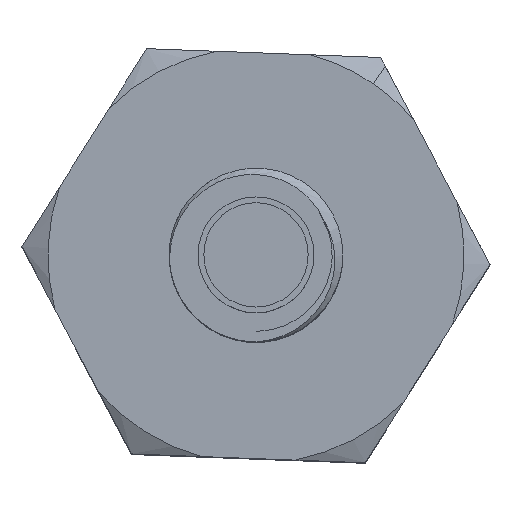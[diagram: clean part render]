
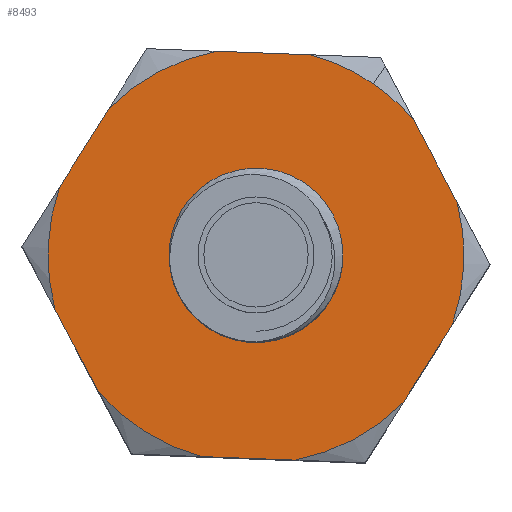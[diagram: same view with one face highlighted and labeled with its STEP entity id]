
A CAD part, top view. The second image highlights one B-rep face of the part: STEP entity #8493.
In plain terms, the highlighted planar face has unit normal (0, 0, 1).
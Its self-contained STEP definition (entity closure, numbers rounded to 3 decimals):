
#40 = VERTEX_POINT ( 'NONE', #11934 ) ;
#68 = VERTEX_POINT ( 'NONE', #5638 ) ;
#167 = AXIS2_PLACEMENT_3D ( 'NONE', #13869, #15284, #13945 ) ;
#428 = EDGE_CURVE ( 'NONE', #1921, #20308, #6421, .T. ) ;
#471 = EDGE_LOOP ( 'NONE', ( #1409, #19967, #14180, #4076, #9982, #4470, #7075, #12801, #4257, #10521, #7459, #13811, #11184 ) ) ;
#1245 = VECTOR ( 'NONE', #20273, 1000. ) ;
#1409 = ORIENTED_EDGE ( 'NONE', *, *, #14018, .F. ) ;
#1561 = DIRECTION ( 'NONE',  ( -0.999, 0.038, 0. ) ) ;
#1770 = CARTESIAN_POINT ( 'NONE',  ( 0., 0., 9.981 ) ) ;
#1832 = CARTESIAN_POINT ( 'NONE',  ( 1.887, -3.574, 9.981 ) ) ;
#1921 = VERTEX_POINT ( 'NONE', #2722 ) ;
#2224 = CIRCLE ( 'NONE', #20480, 3.591 ) ;
#2265 = CARTESIAN_POINT ( 'NONE',  ( 2.534, -2.545, 9.981 ) ) ;
#2294 = CARTESIAN_POINT ( 'NONE',  ( -3.392, 1.181, 9.981 ) ) ;
#2327 = CARTESIAN_POINT ( 'NONE',  ( 0., 0., 9.981 ) ) ;
#2508 = AXIS2_PLACEMENT_3D ( 'NONE', #2327, #8583, #15020 ) ;
#2581 = DIRECTION ( 'NONE',  ( 0.467, -0.884, 0. ) ) ;
#2722 = CARTESIAN_POINT ( 'NONE',  ( -3.471, -0.923, 9.981 ) ) ;
#2902 = LINE ( 'NONE', #18773, #18945 ) ;
#2931 = LINE ( 'NONE', #9053, #19215 ) ;
#2939 = CARTESIAN_POINT ( 'NONE',  ( 0., 0., 9.981 ) ) ;
#3240 = DIRECTION ( 'NONE',  ( 0.564, 0.826, 0. ) ) ;
#3591 = VERTEX_POINT ( 'NONE', #16685 ) ;
#3664 = EDGE_CURVE ( 'NONE', #12375, #68, #2902, .T. ) ;
#4014 = CARTESIAN_POINT ( 'NONE',  ( 0., 0., 9.981 ) ) ;
#4076 = ORIENTED_EDGE ( 'NONE', *, *, #17270, .F. ) ;
#4257 = ORIENTED_EDGE ( 'NONE', *, *, #13579, .F. ) ;
#4326 = CIRCLE ( 'NONE', #2508, 3.591 ) ;
#4346 = EDGE_CURVE ( 'NONE', #20308, #40, #15902, .T. ) ;
#4470 = ORIENTED_EDGE ( 'NONE', *, *, #20348, .F. ) ;
#4597 = VERTEX_POINT ( 'NONE', #15812 ) ;
#4631 = PLANE ( 'NONE',  #7488 ) ;
#4940 = EDGE_CURVE ( 'NONE', #7378, #13513, #4326, .T. ) ;
#5002 = CIRCLE ( 'NONE', #18430, 3.591 ) ;
#5638 = CARTESIAN_POINT ( 'NONE',  ( 0.936, 3.467, 9.981 ) ) ;
#5734 = CARTESIAN_POINT ( 'NONE',  ( 0., 0., 9.981 ) ) ;
#5805 = DIRECTION ( 'NONE',  ( 0., 0., -1. ) ) ;
#5840 = AXIS2_PLACEMENT_3D ( 'NONE', #6577, #6648, #17730 ) ;
#5847 = LINE ( 'NONE', #1832, #6883 ) ;
#6222 = CARTESIAN_POINT ( 'NONE',  ( 0., 0., 9.981 ) ) ;
#6419 = EDGE_CURVE ( 'NONE', #19197, #7378, #10011, .T. ) ;
#6421 = CIRCLE ( 'NONE', #16318, 3.591 ) ;
#6459 = LINE ( 'NONE', #17692, #15690 ) ;
#6577 = CARTESIAN_POINT ( 'NONE',  ( 0., 0., 9.981 ) ) ;
#6648 = DIRECTION ( 'NONE',  ( 0., 0., -1. ) ) ;
#6883 = VECTOR ( 'NONE', #1561, 1000. ) ;
#6907 = EDGE_LOOP ( 'NONE', ( #17323, #9338 ) ) ;
#7074 = EDGE_CURVE ( 'NONE', #11169, #3591, #12410, .T. ) ;
#7075 = ORIENTED_EDGE ( 'NONE', *, *, #4346, .F. ) ;
#7378 = VERTEX_POINT ( 'NONE', #2265 ) ;
#7459 = ORIENTED_EDGE ( 'NONE', *, *, #14937, .F. ) ;
#7488 = AXIS2_PLACEMENT_3D ( 'NONE', #6222, #19289, #9698 ) ;
#7942 = CARTESIAN_POINT ( 'NONE',  ( -0.936, -3.467, 9.981 ) ) ;
#8198 = CARTESIAN_POINT ( 'NONE',  ( 0.673, -3.528, 9.981 ) ) ;
#8421 = CARTESIAN_POINT ( 'NONE',  ( 0.846, 1.239, 9.981 ) ) ;
#8493 = ADVANCED_FACE ( 'NONE', ( #10567, #17814 ), #4631, .F. ) ;
#8583 = DIRECTION ( 'NONE',  ( 0., 0., -1. ) ) ;
#8924 = EDGE_CURVE ( 'NONE', #4597, #13683, #5002, .T. ) ;
#9053 = CARTESIAN_POINT ( 'NONE',  ( 2.151, 3.421, 9.981 ) ) ;
#9246 = EDGE_CURVE ( 'NONE', #19592, #16278, #2224, .T. ) ;
#9338 = ORIENTED_EDGE ( 'NONE', *, *, #7074, .T. ) ;
#9554 = CARTESIAN_POINT ( 'NONE',  ( -4.039, 0.152, 9.981 ) ) ;
#9638 = CIRCLE ( 'NONE', #13426, 3.591 ) ;
#9698 = DIRECTION ( 'NONE',  ( 0.564, 0.826, 0. ) ) ;
#9721 = CARTESIAN_POINT ( 'NONE',  ( -2.719, -2.346, 9.981 ) ) ;
#9821 = DIRECTION ( 'NONE',  ( 0.564, 0.826, 0. ) ) ;
#9825 = DIRECTION ( 'NONE',  ( 0.532, 0.847, 0. ) ) ;
#9982 = ORIENTED_EDGE ( 'NONE', *, *, #3664, .F. ) ;
#10011 = LINE ( 'NONE', #16823, #1245 ) ;
#10488 = DIRECTION ( 'NONE',  ( 0.564, 0.826, 0. ) ) ;
#10521 = ORIENTED_EDGE ( 'NONE', *, *, #9246, .F. ) ;
#10567 = FACE_BOUND ( 'NONE', #6907, .T. ) ;
#10793 = DIRECTION ( 'NONE',  ( 0., 0., -1. ) ) ;
#10864 = CIRCLE ( 'NONE', #17787, 1.5 ) ;
#11169 = VERTEX_POINT ( 'NONE', #8421 ) ;
#11184 = ORIENTED_EDGE ( 'NONE', *, *, #6419, .F. ) ;
#11371 = CARTESIAN_POINT ( 'NONE',  ( 0., 0., 9.981 ) ) ;
#11547 = CIRCLE ( 'NONE', #12172, 3.591 ) ;
#11934 = CARTESIAN_POINT ( 'NONE',  ( -2.534, 2.545, 9.981 ) ) ;
#11976 = CARTESIAN_POINT ( 'NONE',  ( 3.392, -1.181, 9.981 ) ) ;
#12172 = AXIS2_PLACEMENT_3D ( 'NONE', #14135, #13855, #15622 ) ;
#12375 = VERTEX_POINT ( 'NONE', #19486 ) ;
#12410 = CIRCLE ( 'NONE', #167, 1.5 ) ;
#12476 = DIRECTION ( 'NONE',  ( 0.999, -0.038, 0. ) ) ;
#12788 = EDGE_CURVE ( 'NONE', #13683, #13083, #2931, .T. ) ;
#12801 = ORIENTED_EDGE ( 'NONE', *, *, #428, .F. ) ;
#12926 = CIRCLE ( 'NONE', #5840, 3.591 ) ;
#13083 = VERTEX_POINT ( 'NONE', #18396 ) ;
#13426 = AXIS2_PLACEMENT_3D ( 'NONE', #4014, #15231, #20000 ) ;
#13513 = VERTEX_POINT ( 'NONE', #8198 ) ;
#13579 = EDGE_CURVE ( 'NONE', #16278, #1921, #6459, .T. ) ;
#13683 = VERTEX_POINT ( 'NONE', #18651 ) ;
#13811 = ORIENTED_EDGE ( 'NONE', *, *, #4940, .F. ) ;
#13855 = DIRECTION ( 'NONE',  ( 0., 0., -1. ) ) ;
#13869 = CARTESIAN_POINT ( 'NONE',  ( 0., 0., 9.981 ) ) ;
#13945 = DIRECTION ( 'NONE',  ( 0.564, 0.826, 0. ) ) ;
#14018 = EDGE_CURVE ( 'NONE', #13083, #19197, #9638, .T. ) ;
#14135 = CARTESIAN_POINT ( 'NONE',  ( 0., 0., 9.981 ) ) ;
#14148 = DIRECTION ( 'NONE',  ( 0.564, 0.826, 0. ) ) ;
#14180 = ORIENTED_EDGE ( 'NONE', *, *, #8924, .F. ) ;
#14937 = EDGE_CURVE ( 'NONE', #13513, #19592, #5847, .T. ) ;
#15020 = DIRECTION ( 'NONE',  ( 0.564, 0.826, 0. ) ) ;
#15231 = DIRECTION ( 'NONE',  ( 0., 0., -1. ) ) ;
#15284 = DIRECTION ( 'NONE',  ( 0., 0., -1. ) ) ;
#15622 = DIRECTION ( 'NONE',  ( 0.564, 0.826, 0. ) ) ;
#15690 = VECTOR ( 'NONE', #19319, 1000. ) ;
#15812 = CARTESIAN_POINT ( 'NONE',  ( 2.025, 2.966, 9.981 ) ) ;
#15902 = LINE ( 'NONE', #9554, #18631 ) ;
#16219 = DIRECTION ( 'NONE',  ( 0., 0., -1. ) ) ;
#16278 = VERTEX_POINT ( 'NONE', #9721 ) ;
#16318 = AXIS2_PLACEMENT_3D ( 'NONE', #1770, #16219, #3240 ) ;
#16475 = DIRECTION ( 'NONE',  ( 0., 0., -1. ) ) ;
#16685 = CARTESIAN_POINT ( 'NONE',  ( -0.846, -1.239, 9.981 ) ) ;
#16823 = CARTESIAN_POINT ( 'NONE',  ( 4.039, -0.152, 9.981 ) ) ;
#17270 = EDGE_CURVE ( 'NONE', #68, #4597, #12926, .T. ) ;
#17323 = ORIENTED_EDGE ( 'NONE', *, *, #18992, .T. ) ;
#17692 = CARTESIAN_POINT ( 'NONE',  ( -2.151, -3.421, 9.981 ) ) ;
#17730 = DIRECTION ( 'NONE',  ( 0.564, 0.826, 0. ) ) ;
#17787 = AXIS2_PLACEMENT_3D ( 'NONE', #11371, #16475, #9821 ) ;
#17814 = FACE_OUTER_BOUND ( 'NONE', #471, .T. ) ;
#18396 = CARTESIAN_POINT ( 'NONE',  ( 3.471, 0.923, 9.981 ) ) ;
#18430 = AXIS2_PLACEMENT_3D ( 'NONE', #2939, #10793, #14148 ) ;
#18631 = VECTOR ( 'NONE', #9825, 1000. ) ;
#18651 = CARTESIAN_POINT ( 'NONE',  ( 2.719, 2.346, 9.981 ) ) ;
#18773 = CARTESIAN_POINT ( 'NONE',  ( -1.887, 3.574, 9.981 ) ) ;
#18945 = VECTOR ( 'NONE', #12476, 1000. ) ;
#18992 = EDGE_CURVE ( 'NONE', #3591, #11169, #10864, .T. ) ;
#19197 = VERTEX_POINT ( 'NONE', #11976 ) ;
#19215 = VECTOR ( 'NONE', #2581, 1000. ) ;
#19289 = DIRECTION ( 'NONE',  ( 0., 0., -1. ) ) ;
#19319 = DIRECTION ( 'NONE',  ( -0.467, 0.884, 0. ) ) ;
#19486 = CARTESIAN_POINT ( 'NONE',  ( -0.673, 3.528, 9.981 ) ) ;
#19592 = VERTEX_POINT ( 'NONE', #7942 ) ;
#19967 = ORIENTED_EDGE ( 'NONE', *, *, #12788, .F. ) ;
#20000 = DIRECTION ( 'NONE',  ( 0.564, 0.826, 0. ) ) ;
#20273 = DIRECTION ( 'NONE',  ( -0.532, -0.847, 0. ) ) ;
#20308 = VERTEX_POINT ( 'NONE', #2294 ) ;
#20348 = EDGE_CURVE ( 'NONE', #40, #12375, #11547, .T. ) ;
#20480 = AXIS2_PLACEMENT_3D ( 'NONE', #5734, #5805, #10488 ) ;
